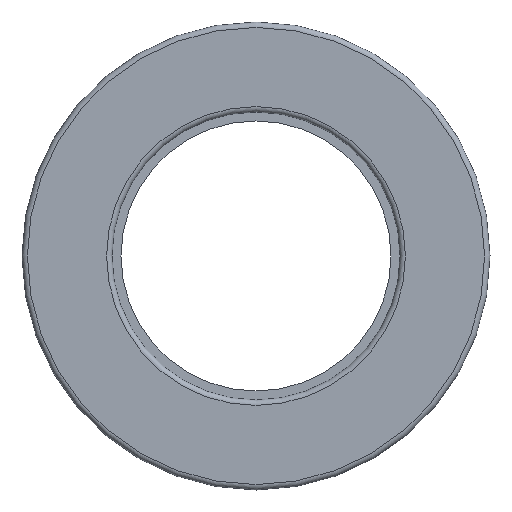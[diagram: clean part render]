
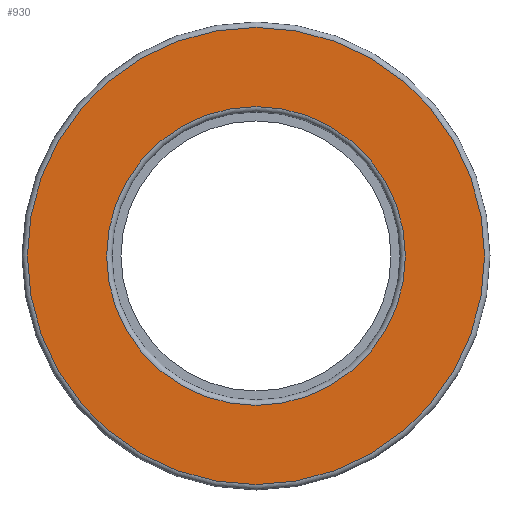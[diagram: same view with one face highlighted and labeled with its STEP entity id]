
A CAD part, front view. The second image highlights one B-rep face of the part: STEP entity #930.
In plain terms, the highlighted planar face has unit normal (0, -1, 0).
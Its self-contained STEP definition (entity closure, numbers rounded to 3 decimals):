
#267=PLANE('',#989);
#313=FACE_BOUND('',#400,.T.);
#346=FACE_OUTER_BOUND('',#399,.T.);
#399=EDGE_LOOP('',(#697));
#400=EDGE_LOOP('',(#698));
#481=CIRCLE('',#988,16.6);
#482=CIRCLE('',#990,25.4);
#499=VERTEX_POINT('',#1347);
#500=VERTEX_POINT('',#1350);
#581=EDGE_CURVE('',#499,#499,#481,.T.);
#582=EDGE_CURVE('',#500,#500,#482,.T.);
#697=ORIENTED_EDGE('',*,*,#582,.F.);
#698=ORIENTED_EDGE('',*,*,#581,.T.);
#930=ADVANCED_FACE('',(#346,#313),#267,.T.);
#988=AXIS2_PLACEMENT_3D('',#1348,#1080,#1081);
#989=AXIS2_PLACEMENT_3D('',#1349,#1082,#1083);
#990=AXIS2_PLACEMENT_3D('',#1351,#1084,#1085);
#1080=DIRECTION('center_axis',(0.,1.,0.));
#1081=DIRECTION('ref_axis',(1.,0.,0.));
#1082=DIRECTION('center_axis',(0.,-1.,0.));
#1083=DIRECTION('ref_axis',(0.,0.,-1.));
#1084=DIRECTION('center_axis',(0.,1.,0.));
#1085=DIRECTION('ref_axis',(1.,0.,0.));
#1347=CARTESIAN_POINT('',(-16.6,-8.,0.));
#1348=CARTESIAN_POINT('Origin',(0.,-8.,0.));
#1349=CARTESIAN_POINT('Origin',(-25.4,-8.,0.));
#1350=CARTESIAN_POINT('',(-25.4,-8.,0.));
#1351=CARTESIAN_POINT('Origin',(0.,-8.,0.));
